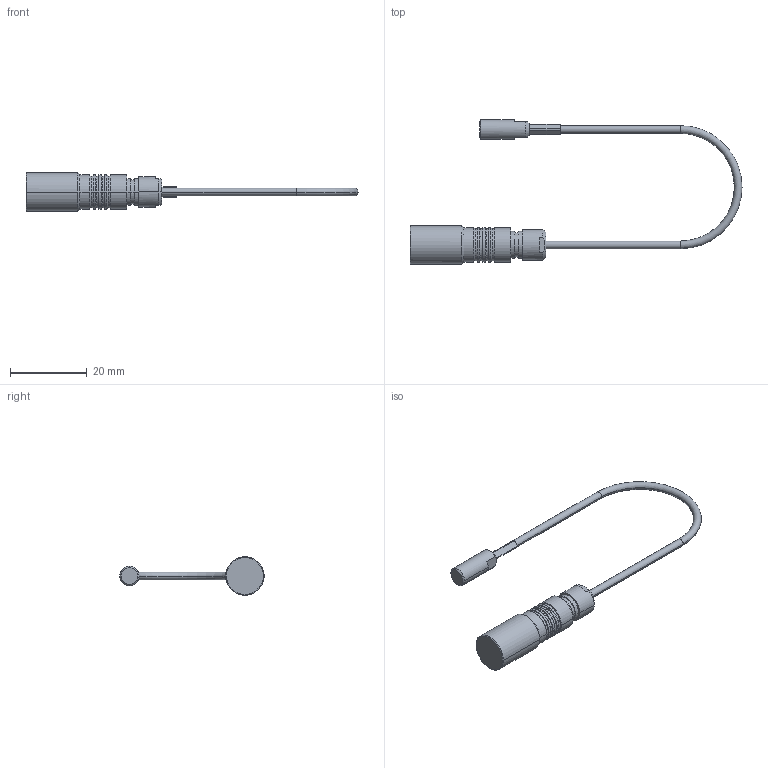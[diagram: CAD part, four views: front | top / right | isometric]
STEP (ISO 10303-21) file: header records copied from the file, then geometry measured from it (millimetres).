
FILE_DESCRIPTION((''),'2;1');
FILE_NAME('Z2600053-B_S2','2010-11-29T',('11000065'),(''),'PRO/ENGINEER BY PARAMETRIC TECHNOLOGY CORPORATION, 2010180','PRO/ENGINEER BY PARAMETRIC TECHNOLOGY CORPORATION, 2010180','');
FILE_SCHEMA(('AUTOMOTIVE_DESIGN { 1 0 10303 214 1 1 1 1 }'));
Length unit declared in the file: millimetre
Products named in the file (1): Z2600053-B_S2
Bounding box: 86.3 x 37.5 x 10 mm (x, y, z)
Volume: 2878 mm3; surface area: 2217.9 mm2
Topology: 1 solids, 1 shells, 83 faces, 184 edges, 114 vertices
Faces by surface type: cylinder 38, plane 25, cone 16, torus 4
Entity records: 3004 total; most frequent: DIRECTION 444, CARTESIAN_POINT 439, ORIENTED_EDGE 368, EDGE_CURVE 184, AXIS2_PLACEMENT_3D 183, VERTEX_POINT 114, CIRCLE 100, EDGE_LOOP 94
